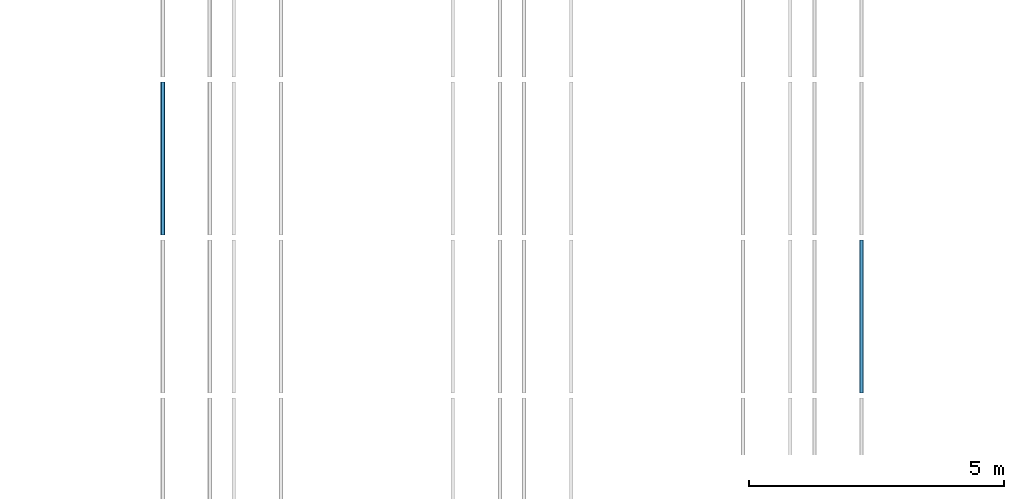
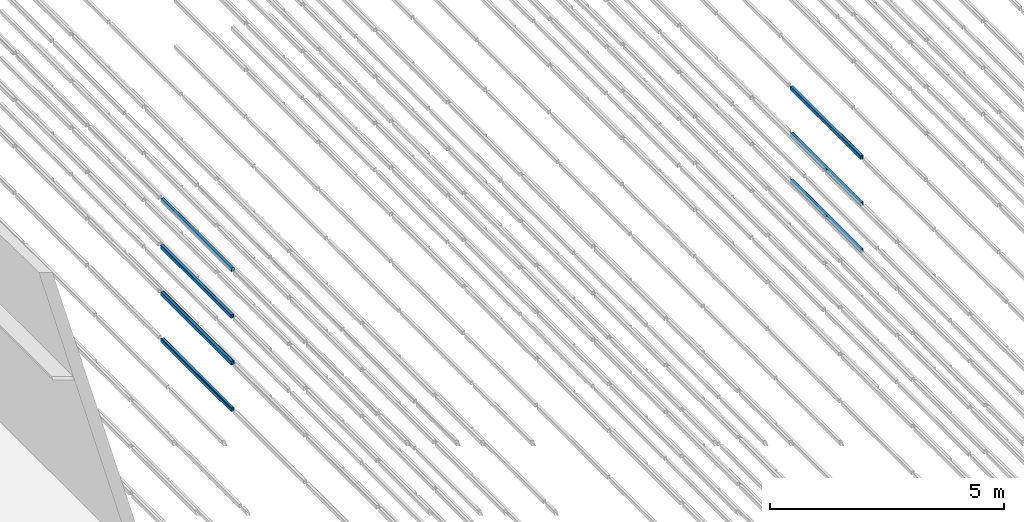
# One storey, part 56 of 290: 9 beams.
"""IFC2X3 building model written with IfcOpenShell, lengths in metres."""

from ifc_helpers import new_model, entity, si_unit, converted_unit, derived_unit, direction, frame, frame_2d, origin, place, context, subcontext, project, spatial, polyline, circle_curve, parameter, trimmed, segment, composite_curve, outline, extrude, material, type_object, element, save


model = new_model("IFC2X3")

# Units and contexts
model_context = context("Model", 3, precision=1e-05, world=origin(), true_north=direction((6.12303176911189e-17, 1.0)))
body_context = subcontext(model_context, "Body", "Model", "MODEL_VIEW")
ifc_project = project(units=[si_unit("LENGTHUNIT", "METRE"), si_unit("AREAUNIT", "SQUARE_METRE"), si_unit("VOLUMEUNIT", "CUBIC_METRE"), converted_unit("PLANEANGLEUNIT", "DEGREE", entity("IfcRatioMeasure", 0.0174532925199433), si_unit("PLANEANGLEUNIT", "RADIAN"), dimensions=[0, 0, 0, 0, 0, 0, 0]), si_unit("MASSUNIT", "GRAM", prefix="KILO"), derived_unit("MASSDENSITYUNIT", [(si_unit("MASSUNIT", "GRAM", prefix="KILO"), 1), (si_unit("LENGTHUNIT", "METRE"), -3)]), derived_unit("MOMENTOFINERTIAUNIT", [(si_unit("LENGTHUNIT", "METRE"), 4)]), si_unit("TIMEUNIT", "SECOND"), si_unit("FREQUENCYUNIT", "HERTZ"), si_unit("THERMODYNAMICTEMPERATUREUNIT", "DEGREE_CELSIUS"), derived_unit("THERMALTRANSMITTANCEUNIT", [(si_unit("MASSUNIT", "GRAM", prefix="KILO"), 1), (si_unit("THERMODYNAMICTEMPERATUREUNIT", "KELVIN"), -1), (si_unit("TIMEUNIT", "SECOND"), -3)]), derived_unit("VOLUMETRICFLOWRATEUNIT", [(si_unit("LENGTHUNIT", "METRE"), 3), (si_unit("TIMEUNIT", "SECOND"), -1)]), si_unit("ELECTRICCURRENTUNIT", "AMPERE"), si_unit("ELECTRICVOLTAGEUNIT", "VOLT"), si_unit("POWERUNIT", "WATT"), si_unit("FORCEUNIT", "NEWTON", prefix="KILO"), si_unit("ILLUMINANCEUNIT", "LUX"), si_unit("LUMINOUSFLUXUNIT", "LUMEN"), si_unit("LUMINOUSINTENSITYUNIT", "CANDELA"), derived_unit("USERDEFINED", [(si_unit("MASSUNIT", "GRAM", prefix="KILO"), -1), (si_unit("LENGTHUNIT", "METRE"), -2), (si_unit("TIMEUNIT", "SECOND"), 3), (si_unit("LUMINOUSFLUXUNIT", "LUMEN"), 1)]), derived_unit("LINEARVELOCITYUNIT", [(si_unit("LENGTHUNIT", "METRE"), 1), (si_unit("TIMEUNIT", "SECOND"), -1)]), si_unit("PRESSUREUNIT", "PASCAL"), derived_unit("USERDEFINED", [(si_unit("LENGTHUNIT", "METRE"), -2), (si_unit("MASSUNIT", "GRAM", prefix="KILO"), 1), (si_unit("TIMEUNIT", "SECOND"), -2)]), derived_unit("LINEARFORCEUNIT", [(si_unit("MASSUNIT", "GRAM", prefix="KILO"), 1), (si_unit("LENGTHUNIT", "METRE"), 1), (si_unit("TIMEUNIT", "SECOND"), -2), (si_unit("LENGTHUNIT", "METRE"), -1)]), derived_unit("PLANARFORCEUNIT", [(si_unit("MASSUNIT", "GRAM", prefix="KILO"), 1), (si_unit("LENGTHUNIT", "METRE"), 1), (si_unit("TIMEUNIT", "SECOND"), -2), (si_unit("LENGTHUNIT", "METRE"), -2)])], contexts=[model_context])

# Site, building, storey
site_placement = place(None, origin())
site = spatial("IfcSite", under=ifc_project, at=site_placement, Name="Default", CompositionType="ELEMENT")
building_placement = place(site_placement, origin())
building = spatial("IfcBuilding", under=site, at=building_placement, CompositionType="ELEMENT")
storey_placement = place(building_placement, frame((0.0, 0.0, 4.0)))
storey = spatial("IfcBuildingStorey", under=building, at=storey_placement, Name="01_OG", CompositionType="ELEMENT", Elevation=4.0)

# Beams
ifc_material = material(Name="Metall - Baustahl S235 blau")
beam_type = type_object("IfcBeamType", Name="RHS Träger (EN 10219-2):RHS 100 x 75 x 5", PredefinedType="NOTDEFINED")
beam_1_placement = place(storey_placement, frame((-188.465111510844, 36.448088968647, 0.0150000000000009), z_axis=(0.0, 0.0, 1.0), x_axis=(0.0, 1.0, 0.0)))
element("IfcBeam", 1, at=beam_1_placement, inside=storey, type_object=beam_type, material=ifc_material, Name="RHS Träger (EN 10219-2):RHS 100 x 75 x 5", ObjectType="RHS Träger (EN 10219-2):RHS 100 x 75 x 5", context=body_context, shape_type="SweptSolid", body=[
    extrude(outline(composite_curve([segment(polyline([(-0.0400000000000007, -0.0374999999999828), (0.0399999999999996, -0.0374999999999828)]), True, "CONTINUOUS"), segment(trimmed(circle_curve(frame_2d((0.0399999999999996, -0.0274999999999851), x_axis=(0.0, 1.0)), 0.01), [parameter(180.0)], [parameter(270.0)], True, "PARAMETER"), True, "CONTINUOUS"), segment(polyline([(0.0499999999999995, -0.0274999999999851), (0.0499999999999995, 0.0274999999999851)]), True, "CONTINUOUS"), segment(trimmed(circle_curve(frame_2d((0.0399999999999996, 0.0274999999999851), x_axis=(0.0, 1.0)), 0.01), [parameter(270.0)], [parameter(4.07110999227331e-13)], True, "PARAMETER"), True, "CONTINUOUS"), segment(polyline([(0.0399999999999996, 0.0375000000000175), (-0.0400000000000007, 0.0375000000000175)]), True, "CONTINUOUS"), segment(trimmed(circle_curve(frame_2d((-0.0400000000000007, 0.0274999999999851), x_axis=(0.0, 1.0)), 0.01), [parameter(360.0)], [parameter(90.0000000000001)], True, "PARAMETER"), True, "CONTINUOUS"), segment(polyline([(-0.0500000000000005, 0.0274999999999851), (-0.0500000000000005, -0.0274999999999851)]), True, "CONTINUOUS"), segment(trimmed(circle_curve(frame_2d((-0.0400000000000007, -0.0274999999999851), x_axis=(0.0, 1.0)), 0.01), [parameter(90.0000000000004)], [parameter(180.0)], True, "PARAMETER"), True, "CONTINUOUS")], self_intersect=False), holes=[composite_curve([segment(trimmed(circle_curve(frame_2d((-0.0400000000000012, 0.0274999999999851), x_axis=(0.0, 1.0)), 0.005), [parameter(360.0)], [parameter(89.9999999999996)], True, "PARAMETER"), False, "CONTINUOUS"), segment(polyline([(-0.0400000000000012, 0.0325000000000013), (0.0399999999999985, 0.0325000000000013)]), True, "CONTINUOUS"), segment(trimmed(circle_curve(frame_2d((0.0399999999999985, 0.0274999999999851), x_axis=(0.0, 1.0)), 0.005), [parameter(270.0)], [parameter(0.0)], True, "PARAMETER"), False, "CONTINUOUS"), segment(polyline([(0.0449999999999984, 0.0274999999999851), (0.0449999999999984, -0.0274999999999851)]), True, "CONTINUOUS"), segment(trimmed(circle_curve(frame_2d((0.0399999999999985, -0.0274999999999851), x_axis=(0.0, 1.0)), 0.005), [parameter(180.0)], [parameter(269.999999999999)], True, "PARAMETER"), False, "CONTINUOUS"), segment(polyline([(0.0399999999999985, -0.0325000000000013), (-0.0400000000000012, -0.0325000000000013)]), True, "CONTINUOUS"), segment(trimmed(circle_curve(frame_2d((-0.0400000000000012, -0.0274999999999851), x_axis=(0.0, 1.0)), 0.005), [parameter(90.0000000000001)], [parameter(180.0)], True, "PARAMETER"), False, "CONTINUOUS"), segment(polyline([(-0.0450000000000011, -0.0274999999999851), (-0.0450000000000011, 0.0274999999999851)]), True, "CONTINUOUS")], self_intersect=False)]), frame((9.9999999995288e-05, -0.0375000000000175, -0.0500000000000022), z_axis=(1.0, 0.0, 0.0), x_axis=(0.0, 0.0, -1.0)), (0.0, 0.0, 1.0), 2.9998),
])
beam_2_placement = place(storey_placement, frame((-188.465111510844, 36.448088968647, 1.23), z_axis=(0.0, 0.0, 1.0), x_axis=(0.0, 1.0, 0.0)))
element("IfcBeam", 2, at=beam_2_placement, inside=storey, type_object=beam_type, material=ifc_material, Name="RHS Träger (EN 10219-2):RHS 100 x 75 x 5", ObjectType="RHS Träger (EN 10219-2):RHS 100 x 75 x 5", context=body_context, shape_type="SweptSolid", body=[
    extrude(outline(composite_curve([segment(polyline([(-0.0399999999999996, -0.0374999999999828), (0.0399999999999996, -0.0374999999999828)]), True, "CONTINUOUS"), segment(trimmed(circle_curve(frame_2d((0.0399999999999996, -0.0274999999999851), x_axis=(0.0, 1.0)), 0.01), [parameter(180.0)], [parameter(270.0)], True, "PARAMETER"), True, "CONTINUOUS"), segment(polyline([(0.0500000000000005, -0.0274999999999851), (0.0500000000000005, 0.0274999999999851)]), True, "CONTINUOUS"), segment(trimmed(circle_curve(frame_2d((0.0399999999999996, 0.0274999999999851), x_axis=(0.0, 1.0)), 0.01), [parameter(270.0)], [parameter(4.07110999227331e-13)], True, "PARAMETER"), True, "CONTINUOUS"), segment(polyline([(0.0399999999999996, 0.0375000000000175), (-0.0399999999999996, 0.0375000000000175)]), True, "CONTINUOUS"), segment(trimmed(circle_curve(frame_2d((-0.0399999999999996, 0.0274999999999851), x_axis=(0.0, 1.0)), 0.01), [parameter(360.0)], [parameter(90.0000000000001)], True, "PARAMETER"), True, "CONTINUOUS"), segment(polyline([(-0.0499999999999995, 0.0274999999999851), (-0.0499999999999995, -0.0274999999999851)]), True, "CONTINUOUS"), segment(trimmed(circle_curve(frame_2d((-0.0399999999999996, -0.0274999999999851), x_axis=(0.0, 1.0)), 0.01), [parameter(90.0000000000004)], [parameter(180.0)], True, "PARAMETER"), True, "CONTINUOUS")], self_intersect=False), holes=[composite_curve([segment(trimmed(circle_curve(frame_2d((-0.0400000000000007, 0.0274999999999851), x_axis=(0.0, 1.0)), 0.005), [parameter(360.0)], [parameter(89.9999999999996)], True, "PARAMETER"), False, "CONTINUOUS"), segment(polyline([(-0.0400000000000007, 0.0325000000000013), (0.0399999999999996, 0.0325000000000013)]), True, "CONTINUOUS"), segment(trimmed(circle_curve(frame_2d((0.0399999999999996, 0.0274999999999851), x_axis=(0.0, 1.0)), 0.005), [parameter(270.0)], [parameter(0.0)], True, "PARAMETER"), False, "CONTINUOUS"), segment(polyline([(0.0449999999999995, 0.0274999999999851), (0.0449999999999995, -0.0274999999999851)]), True, "CONTINUOUS"), segment(trimmed(circle_curve(frame_2d((0.0399999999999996, -0.0274999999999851), x_axis=(0.0, 1.0)), 0.005), [parameter(180.0)], [parameter(269.999999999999)], True, "PARAMETER"), False, "CONTINUOUS"), segment(polyline([(0.0399999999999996, -0.0325000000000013), (-0.0400000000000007, -0.0325000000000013)]), True, "CONTINUOUS"), segment(trimmed(circle_curve(frame_2d((-0.0400000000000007, -0.0274999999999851), x_axis=(0.0, 1.0)), 0.005), [parameter(90.0000000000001)], [parameter(180.0)], True, "PARAMETER"), False, "CONTINUOUS"), segment(polyline([(-0.0450000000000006, -0.0274999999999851), (-0.0450000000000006, 0.0274999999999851)]), True, "CONTINUOUS")], self_intersect=False)]), frame((9.99999999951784e-05, -0.0375000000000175, -0.0500000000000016), z_axis=(1.0, 0.0, 0.0), x_axis=(0.0, 0.0, -1.0)), (0.0, 0.0, 1.0), 2.9998),
])
beam_3_placement = place(storey_placement, frame((-188.465111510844, 36.448088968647, 2.445), z_axis=(0.0, 0.0, 1.0), x_axis=(0.0, 1.0, 0.0)))
element("IfcBeam", 3, at=beam_3_placement, inside=storey, type_object=beam_type, material=ifc_material, Name="RHS Träger (EN 10219-2):RHS 100 x 75 x 5", ObjectType="RHS Träger (EN 10219-2):RHS 100 x 75 x 5", context=body_context, shape_type="SweptSolid", body=[
    extrude(outline(composite_curve([segment(polyline([(-0.0399999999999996, -0.0374999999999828), (0.0399999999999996, -0.0374999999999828)]), True, "CONTINUOUS"), segment(trimmed(circle_curve(frame_2d((0.0399999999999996, -0.0274999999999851), x_axis=(0.0, 1.0)), 0.01), [parameter(180.0)], [parameter(270.0)], True, "PARAMETER"), True, "CONTINUOUS"), segment(polyline([(0.0500000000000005, -0.0274999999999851), (0.0500000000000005, 0.0274999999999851)]), True, "CONTINUOUS"), segment(trimmed(circle_curve(frame_2d((0.0399999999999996, 0.0274999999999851), x_axis=(0.0, 1.0)), 0.01), [parameter(270.0)], [parameter(4.07110999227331e-13)], True, "PARAMETER"), True, "CONTINUOUS"), segment(polyline([(0.0399999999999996, 0.0375000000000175), (-0.0399999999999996, 0.0375000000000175)]), True, "CONTINUOUS"), segment(trimmed(circle_curve(frame_2d((-0.0399999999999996, 0.0274999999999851), x_axis=(0.0, 1.0)), 0.01), [parameter(360.0)], [parameter(90.0000000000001)], True, "PARAMETER"), True, "CONTINUOUS"), segment(polyline([(-0.0499999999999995, 0.0274999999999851), (-0.0499999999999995, -0.0274999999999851)]), True, "CONTINUOUS"), segment(trimmed(circle_curve(frame_2d((-0.0399999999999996, -0.0274999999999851), x_axis=(0.0, 1.0)), 0.01), [parameter(90.0000000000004)], [parameter(180.0)], True, "PARAMETER"), True, "CONTINUOUS")], self_intersect=False), holes=[composite_curve([segment(trimmed(circle_curve(frame_2d((-0.0400000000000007, 0.0274999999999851), x_axis=(0.0, 1.0)), 0.005), [parameter(360.0)], [parameter(89.9999999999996)], True, "PARAMETER"), False, "CONTINUOUS"), segment(polyline([(-0.0400000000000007, 0.0325000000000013), (0.0399999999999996, 0.0325000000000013)]), True, "CONTINUOUS"), segment(trimmed(circle_curve(frame_2d((0.0399999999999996, 0.0274999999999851), x_axis=(0.0, 1.0)), 0.005), [parameter(270.0)], [parameter(0.0)], True, "PARAMETER"), False, "CONTINUOUS"), segment(polyline([(0.0449999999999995, 0.0274999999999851), (0.0449999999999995, -0.0274999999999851)]), True, "CONTINUOUS"), segment(trimmed(circle_curve(frame_2d((0.0399999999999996, -0.0274999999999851), x_axis=(0.0, 1.0)), 0.005), [parameter(180.0)], [parameter(269.999999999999)], True, "PARAMETER"), False, "CONTINUOUS"), segment(polyline([(0.0399999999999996, -0.0325000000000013), (-0.0400000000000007, -0.0325000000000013)]), True, "CONTINUOUS"), segment(trimmed(circle_curve(frame_2d((-0.0400000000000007, -0.0274999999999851), x_axis=(0.0, 1.0)), 0.005), [parameter(90.0000000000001)], [parameter(180.0)], True, "PARAMETER"), False, "CONTINUOUS"), segment(polyline([(-0.0450000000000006, -0.0274999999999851), (-0.0450000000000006, 0.0274999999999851)]), True, "CONTINUOUS")], self_intersect=False)]), frame((9.99999999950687e-05, -0.0375000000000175, -0.0500000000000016), z_axis=(1.0, 0.0, 0.0), x_axis=(0.0, 0.0, -1.0)), (0.0, 0.0, 1.0), 2.9998),
])
beam_4_placement = place(storey_placement, frame((-202.105111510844, 39.548088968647, -1.2), z_axis=(0.0, 0.0, 1.0), x_axis=(0.0, 1.0, 0.0)))
element("IfcBeam", 4, at=beam_4_placement, inside=storey, type_object=beam_type, material=ifc_material, Name="RHS Träger (EN 10219-2):RHS 100 x 75 x 5", ObjectType="RHS Träger (EN 10219-2):RHS 100 x 75 x 5", context=body_context, shape_type="SweptSolid", body=[
    extrude(outline(composite_curve([segment(trimmed(circle_curve(frame_2d((-0.0274999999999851, -0.0400000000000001), x_axis=(1.0, 0.0)), 0.01), [parameter(180.0)], [parameter(270.0)], True, "PARAMETER"), True, "CONTINUOUS"), segment(polyline([(-0.0274999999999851, -0.05), (0.0274999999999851, -0.05)]), True, "CONTINUOUS"), segment(trimmed(circle_curve(frame_2d((0.0274999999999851, -0.0400000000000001), x_axis=(1.0, 0.0)), 0.01), [parameter(270.0)], [parameter(5.08888749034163e-14)], True, "PARAMETER"), True, "CONTINUOUS"), segment(polyline([(0.0375000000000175, -0.0400000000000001), (0.0375000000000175, 0.0400000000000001)]), True, "CONTINUOUS"), segment(trimmed(circle_curve(frame_2d((0.0274999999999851, 0.0400000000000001), x_axis=(1.0, 0.0)), 0.01), [parameter(360.0)], [parameter(89.9999999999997)], True, "PARAMETER"), True, "CONTINUOUS"), segment(polyline([(0.0274999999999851, 0.05), (-0.0274999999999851, 0.05)]), True, "CONTINUOUS"), segment(trimmed(circle_curve(frame_2d((-0.0274999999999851, 0.0400000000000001), x_axis=(1.0, 0.0)), 0.01), [parameter(90.0000000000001)], [parameter(180.0)], True, "PARAMETER"), True, "CONTINUOUS"), segment(polyline([(-0.0374999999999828, 0.0400000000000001), (-0.0374999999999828, -0.0400000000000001)]), True, "CONTINUOUS")], self_intersect=False), holes=[composite_curve([segment(polyline([(0.0274999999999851, -0.0450000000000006), (-0.0274999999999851, -0.0450000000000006)]), True, "CONTINUOUS"), segment(trimmed(circle_curve(frame_2d((-0.0274999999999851, -0.0400000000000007), x_axis=(1.0, 0.0)), 0.005), [parameter(180.0)], [parameter(270.0)], True, "PARAMETER"), False, "CONTINUOUS"), segment(polyline([(-0.0325000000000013, -0.0400000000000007), (-0.0325000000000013, 0.039999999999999)]), True, "CONTINUOUS"), segment(trimmed(circle_curve(frame_2d((-0.0274999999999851, 0.039999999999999), x_axis=(1.0, 0.0)), 0.005), [parameter(90.0000000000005)], [parameter(180.0)], True, "PARAMETER"), False, "CONTINUOUS"), segment(polyline([(-0.0274999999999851, 0.044999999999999), (0.0274999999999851, 0.044999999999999)]), True, "CONTINUOUS"), segment(trimmed(circle_curve(frame_2d((0.0274999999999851, 0.039999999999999), x_axis=(1.0, 0.0)), 0.005), [parameter(0.0)], [parameter(90.0000000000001)], True, "PARAMETER"), False, "CONTINUOUS"), segment(polyline([(0.0325000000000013, 0.039999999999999), (0.0325000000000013, -0.0400000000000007)]), True, "CONTINUOUS"), segment(trimmed(circle_curve(frame_2d((0.0274999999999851, -0.0400000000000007), x_axis=(1.0, 0.0)), 0.005), [parameter(270.0)], [parameter(4.07110999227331e-13)], True, "PARAMETER"), False, "CONTINUOUS")], self_intersect=False)]), frame((9.99999999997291e-05, 0.0375000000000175, -0.0500000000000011), z_axis=(1.0, 0.0, 0.0), x_axis=(0.0, -1.0, 0.0)), (0.0, 0.0, 1.0), 2.99979999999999),
])
beam_5_placement = place(storey_placement, frame((-202.105111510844, 39.548088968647, 0.0150000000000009), z_axis=(0.0, 0.0, 1.0), x_axis=(0.0, 1.0, 0.0)))
element("IfcBeam", 5, at=beam_5_placement, inside=storey, type_object=beam_type, material=ifc_material, Name="RHS Träger (EN 10219-2):RHS 100 x 75 x 5", ObjectType="RHS Träger (EN 10219-2):RHS 100 x 75 x 5", context=body_context, shape_type="SweptSolid", body=[
    extrude(outline(composite_curve([segment(trimmed(circle_curve(frame_2d((-0.0274999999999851, -0.0400000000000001), x_axis=(1.0, 0.0)), 0.01), [parameter(180.0)], [parameter(270.0)], True, "PARAMETER"), True, "CONTINUOUS"), segment(polyline([(-0.0274999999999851, -0.05), (0.0274999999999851, -0.05)]), True, "CONTINUOUS"), segment(trimmed(circle_curve(frame_2d((0.0274999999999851, -0.0400000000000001), x_axis=(1.0, 0.0)), 0.01), [parameter(270.0)], [parameter(5.08888749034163e-14)], True, "PARAMETER"), True, "CONTINUOUS"), segment(polyline([(0.0375000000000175, -0.0400000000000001), (0.0375000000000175, 0.0400000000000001)]), True, "CONTINUOUS"), segment(trimmed(circle_curve(frame_2d((0.0274999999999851, 0.0400000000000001), x_axis=(1.0, 0.0)), 0.01), [parameter(360.0)], [parameter(89.9999999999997)], True, "PARAMETER"), True, "CONTINUOUS"), segment(polyline([(0.0274999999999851, 0.05), (-0.0274999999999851, 0.05)]), True, "CONTINUOUS"), segment(trimmed(circle_curve(frame_2d((-0.0274999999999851, 0.0400000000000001), x_axis=(1.0, 0.0)), 0.01), [parameter(90.0000000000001)], [parameter(180.0)], True, "PARAMETER"), True, "CONTINUOUS"), segment(polyline([(-0.0374999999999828, 0.0400000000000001), (-0.0374999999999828, -0.0400000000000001)]), True, "CONTINUOUS")], self_intersect=False), holes=[composite_curve([segment(polyline([(0.0274999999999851, -0.0450000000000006), (-0.0274999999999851, -0.0450000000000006)]), True, "CONTINUOUS"), segment(trimmed(circle_curve(frame_2d((-0.0274999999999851, -0.0400000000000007), x_axis=(1.0, 0.0)), 0.005), [parameter(180.0)], [parameter(270.0)], True, "PARAMETER"), False, "CONTINUOUS"), segment(polyline([(-0.0325000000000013, -0.0400000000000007), (-0.0325000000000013, 0.039999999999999)]), True, "CONTINUOUS"), segment(trimmed(circle_curve(frame_2d((-0.0274999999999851, 0.039999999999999), x_axis=(1.0, 0.0)), 0.005), [parameter(90.0000000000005)], [parameter(180.0)], True, "PARAMETER"), False, "CONTINUOUS"), segment(polyline([(-0.0274999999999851, 0.044999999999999), (0.0274999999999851, 0.044999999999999)]), True, "CONTINUOUS"), segment(trimmed(circle_curve(frame_2d((0.0274999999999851, 0.039999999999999), x_axis=(1.0, 0.0)), 0.005), [parameter(0.0)], [parameter(90.0000000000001)], True, "PARAMETER"), False, "CONTINUOUS"), segment(polyline([(0.0325000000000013, 0.039999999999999), (0.0325000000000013, -0.0400000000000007)]), True, "CONTINUOUS"), segment(trimmed(circle_curve(frame_2d((0.0274999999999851, -0.0400000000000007), x_axis=(1.0, 0.0)), 0.005), [parameter(270.0)], [parameter(4.07110999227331e-13)], True, "PARAMETER"), False, "CONTINUOUS")], self_intersect=False)]), frame((9.99999999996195e-05, 0.0375000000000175, -0.0500000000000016), z_axis=(1.0, 0.0, 0.0), x_axis=(0.0, -1.0, 0.0)), (0.0, 0.0, 1.0), 2.99979999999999),
])
beam_6_placement = place(storey_placement, frame((-202.105111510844, 39.548088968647, 2.445), z_axis=(0.0, 0.0, 1.0), x_axis=(0.0, 1.0, 0.0)))
element("IfcBeam", 6, at=beam_6_placement, inside=storey, type_object=beam_type, material=ifc_material, Name="RHS Träger (EN 10219-2):RHS 100 x 75 x 5", ObjectType="RHS Träger (EN 10219-2):RHS 100 x 75 x 5", context=body_context, shape_type="SweptSolid", body=[
    extrude(outline(composite_curve([segment(trimmed(circle_curve(frame_2d((-0.0274999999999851, -0.0399999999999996), x_axis=(1.0, 0.0)), 0.01), [parameter(180.0)], [parameter(270.0)], True, "PARAMETER"), True, "CONTINUOUS"), segment(polyline([(-0.0274999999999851, -0.0499999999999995), (0.0274999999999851, -0.0499999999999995)]), True, "CONTINUOUS"), segment(trimmed(circle_curve(frame_2d((0.0274999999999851, -0.0399999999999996), x_axis=(1.0, 0.0)), 0.01), [parameter(270.0)], [parameter(5.08888749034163e-14)], True, "PARAMETER"), True, "CONTINUOUS"), segment(polyline([(0.0375000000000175, -0.0399999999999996), (0.0375000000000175, 0.0399999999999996)]), True, "CONTINUOUS"), segment(trimmed(circle_curve(frame_2d((0.0274999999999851, 0.0399999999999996), x_axis=(1.0, 0.0)), 0.01), [parameter(360.0)], [parameter(89.9999999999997)], True, "PARAMETER"), True, "CONTINUOUS"), segment(polyline([(0.0274999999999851, 0.0500000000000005), (-0.0274999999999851, 0.0500000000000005)]), True, "CONTINUOUS"), segment(trimmed(circle_curve(frame_2d((-0.0274999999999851, 0.0399999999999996), x_axis=(1.0, 0.0)), 0.01), [parameter(90.0000000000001)], [parameter(180.0)], True, "PARAMETER"), True, "CONTINUOUS"), segment(polyline([(-0.0374999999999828, 0.0399999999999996), (-0.0374999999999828, -0.0399999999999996)]), True, "CONTINUOUS")], self_intersect=False), holes=[composite_curve([segment(polyline([(0.0274999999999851, -0.0450000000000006), (-0.0274999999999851, -0.0450000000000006)]), True, "CONTINUOUS"), segment(trimmed(circle_curve(frame_2d((-0.0274999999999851, -0.0400000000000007), x_axis=(1.0, 0.0)), 0.005), [parameter(180.0)], [parameter(270.0)], True, "PARAMETER"), False, "CONTINUOUS"), segment(polyline([(-0.0325000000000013, -0.0400000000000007), (-0.0325000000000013, 0.0399999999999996)]), True, "CONTINUOUS"), segment(trimmed(circle_curve(frame_2d((-0.0274999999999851, 0.0399999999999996), x_axis=(1.0, 0.0)), 0.005), [parameter(90.0000000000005)], [parameter(180.0)], True, "PARAMETER"), False, "CONTINUOUS"), segment(polyline([(-0.0274999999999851, 0.0449999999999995), (0.0274999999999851, 0.0449999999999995)]), True, "CONTINUOUS"), segment(trimmed(circle_curve(frame_2d((0.0274999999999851, 0.0399999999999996), x_axis=(1.0, 0.0)), 0.005), [parameter(0.0)], [parameter(90.0000000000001)], True, "PARAMETER"), False, "CONTINUOUS"), segment(polyline([(0.0325000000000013, 0.0399999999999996), (0.0325000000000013, -0.0400000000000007)]), True, "CONTINUOUS"), segment(trimmed(circle_curve(frame_2d((0.0274999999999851, -0.0400000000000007), x_axis=(1.0, 0.0)), 0.005), [parameter(270.0)], [parameter(4.07110999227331e-13)], True, "PARAMETER"), False, "CONTINUOUS")], self_intersect=False)]), frame((9.99999999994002e-05, 0.0375000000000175, -0.0500000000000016), z_axis=(1.0, 0.0, 0.0), x_axis=(0.0, -1.0, 0.0)), (0.0, 0.0, 1.0), 2.99979999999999),
])
beam_7_placement = place(storey_placement, frame((-202.115111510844, 39.548088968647, -1.2), z_axis=(0.0, 0.0, 1.0), x_axis=(0.0, 1.0, 0.0)))
element("IfcBeam", 7, at=beam_7_placement, inside=storey, type_object=beam_type, material=ifc_material, Name="RHS Träger (EN 10219-2):RHS 100 x 75 x 5", ObjectType="RHS Träger (EN 10219-2):RHS 100 x 75 x 5", context=body_context, shape_type="SweptSolid", body=[
    extrude(outline(composite_curve([segment(trimmed(circle_curve(frame_2d((-0.0274999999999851, -0.0400000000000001), x_axis=(1.0, 0.0)), 0.01), [parameter(180.0)], [parameter(270.0)], True, "PARAMETER"), True, "CONTINUOUS"), segment(polyline([(-0.0274999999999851, -0.05), (0.0274999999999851, -0.05)]), True, "CONTINUOUS"), segment(trimmed(circle_curve(frame_2d((0.0274999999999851, -0.0400000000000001), x_axis=(1.0, 0.0)), 0.01), [parameter(270.0)], [parameter(5.08888749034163e-14)], True, "PARAMETER"), True, "CONTINUOUS"), segment(polyline([(0.0375000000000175, -0.0400000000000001), (0.0375000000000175, 0.0400000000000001)]), True, "CONTINUOUS"), segment(trimmed(circle_curve(frame_2d((0.0274999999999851, 0.0400000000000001), x_axis=(1.0, 0.0)), 0.01), [parameter(360.0)], [parameter(89.9999999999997)], True, "PARAMETER"), True, "CONTINUOUS"), segment(polyline([(0.0274999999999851, 0.05), (-0.0274999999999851, 0.05)]), True, "CONTINUOUS"), segment(trimmed(circle_curve(frame_2d((-0.0274999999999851, 0.0400000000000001), x_axis=(1.0, 0.0)), 0.01), [parameter(90.0000000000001)], [parameter(180.0)], True, "PARAMETER"), True, "CONTINUOUS"), segment(polyline([(-0.0374999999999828, 0.0400000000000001), (-0.0374999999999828, -0.0400000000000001)]), True, "CONTINUOUS")], self_intersect=False), holes=[composite_curve([segment(polyline([(0.0274999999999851, -0.0450000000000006), (-0.0274999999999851, -0.0450000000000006)]), True, "CONTINUOUS"), segment(trimmed(circle_curve(frame_2d((-0.0274999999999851, -0.0400000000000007), x_axis=(1.0, 0.0)), 0.005), [parameter(180.0)], [parameter(270.0)], True, "PARAMETER"), False, "CONTINUOUS"), segment(polyline([(-0.0325000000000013, -0.0400000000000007), (-0.0325000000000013, 0.039999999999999)]), True, "CONTINUOUS"), segment(trimmed(circle_curve(frame_2d((-0.0274999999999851, 0.039999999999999), x_axis=(1.0, 0.0)), 0.005), [parameter(90.0000000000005)], [parameter(180.0)], True, "PARAMETER"), False, "CONTINUOUS"), segment(polyline([(-0.0274999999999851, 0.044999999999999), (0.0274999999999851, 0.044999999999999)]), True, "CONTINUOUS"), segment(trimmed(circle_curve(frame_2d((0.0274999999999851, 0.039999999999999), x_axis=(1.0, 0.0)), 0.005), [parameter(0.0)], [parameter(90.0000000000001)], True, "PARAMETER"), False, "CONTINUOUS"), segment(polyline([(0.0325000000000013, 0.039999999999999), (0.0325000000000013, -0.0400000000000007)]), True, "CONTINUOUS"), segment(trimmed(circle_curve(frame_2d((0.0274999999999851, -0.0400000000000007), x_axis=(1.0, 0.0)), 0.005), [parameter(270.0)], [parameter(4.07110999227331e-13)], True, "PARAMETER"), False, "CONTINUOUS")], self_intersect=False)]), frame((9.99999999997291e-05, 0.0375000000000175, -0.0500000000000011), z_axis=(1.0, 0.0, 0.0), x_axis=(0.0, -1.0, 0.0)), (0.0, 0.0, 1.0), 2.99979999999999),
])
beam_8_placement = place(storey_placement, frame((-202.115111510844, 39.548088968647, 0.0150000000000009), z_axis=(0.0, 0.0, 1.0), x_axis=(0.0, 1.0, 0.0)))
element("IfcBeam", 8, at=beam_8_placement, inside=storey, type_object=beam_type, material=ifc_material, Name="RHS Träger (EN 10219-2):RHS 100 x 75 x 5", ObjectType="RHS Träger (EN 10219-2):RHS 100 x 75 x 5", context=body_context, shape_type="SweptSolid", body=[
    extrude(outline(composite_curve([segment(trimmed(circle_curve(frame_2d((-0.0274999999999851, -0.0400000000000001), x_axis=(1.0, 0.0)), 0.01), [parameter(180.0)], [parameter(270.0)], True, "PARAMETER"), True, "CONTINUOUS"), segment(polyline([(-0.0274999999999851, -0.05), (0.0274999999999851, -0.05)]), True, "CONTINUOUS"), segment(trimmed(circle_curve(frame_2d((0.0274999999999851, -0.0400000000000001), x_axis=(1.0, 0.0)), 0.01), [parameter(270.0)], [parameter(5.08888749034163e-14)], True, "PARAMETER"), True, "CONTINUOUS"), segment(polyline([(0.0375000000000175, -0.0400000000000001), (0.0375000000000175, 0.0400000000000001)]), True, "CONTINUOUS"), segment(trimmed(circle_curve(frame_2d((0.0274999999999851, 0.0400000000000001), x_axis=(1.0, 0.0)), 0.01), [parameter(360.0)], [parameter(89.9999999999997)], True, "PARAMETER"), True, "CONTINUOUS"), segment(polyline([(0.0274999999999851, 0.05), (-0.0274999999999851, 0.05)]), True, "CONTINUOUS"), segment(trimmed(circle_curve(frame_2d((-0.0274999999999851, 0.0400000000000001), x_axis=(1.0, 0.0)), 0.01), [parameter(90.0000000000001)], [parameter(180.0)], True, "PARAMETER"), True, "CONTINUOUS"), segment(polyline([(-0.0374999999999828, 0.0400000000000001), (-0.0374999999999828, -0.0400000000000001)]), True, "CONTINUOUS")], self_intersect=False), holes=[composite_curve([segment(polyline([(0.0274999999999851, -0.0450000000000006), (-0.0274999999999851, -0.0450000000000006)]), True, "CONTINUOUS"), segment(trimmed(circle_curve(frame_2d((-0.0274999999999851, -0.0400000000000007), x_axis=(1.0, 0.0)), 0.005), [parameter(180.0)], [parameter(270.0)], True, "PARAMETER"), False, "CONTINUOUS"), segment(polyline([(-0.0325000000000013, -0.0400000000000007), (-0.0325000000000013, 0.039999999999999)]), True, "CONTINUOUS"), segment(trimmed(circle_curve(frame_2d((-0.0274999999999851, 0.039999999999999), x_axis=(1.0, 0.0)), 0.005), [parameter(90.0000000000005)], [parameter(180.0)], True, "PARAMETER"), False, "CONTINUOUS"), segment(polyline([(-0.0274999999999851, 0.044999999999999), (0.0274999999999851, 0.044999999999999)]), True, "CONTINUOUS"), segment(trimmed(circle_curve(frame_2d((0.0274999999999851, 0.039999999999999), x_axis=(1.0, 0.0)), 0.005), [parameter(0.0)], [parameter(90.0000000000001)], True, "PARAMETER"), False, "CONTINUOUS"), segment(polyline([(0.0325000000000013, 0.039999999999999), (0.0325000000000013, -0.0400000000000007)]), True, "CONTINUOUS"), segment(trimmed(circle_curve(frame_2d((0.0274999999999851, -0.0400000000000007), x_axis=(1.0, 0.0)), 0.005), [parameter(270.0)], [parameter(4.07110999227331e-13)], True, "PARAMETER"), False, "CONTINUOUS")], self_intersect=False)]), frame((9.99999999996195e-05, 0.0375000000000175, -0.0500000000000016), z_axis=(1.0, 0.0, 0.0), x_axis=(0.0, -1.0, 0.0)), (0.0, 0.0, 1.0), 2.99979999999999),
])
beam_9_placement = place(storey_placement, frame((-202.115111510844, 39.548088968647, 1.23), z_axis=(0.0, 0.0, 1.0), x_axis=(0.0, 1.0, 0.0)))
element("IfcBeam", 9, at=beam_9_placement, inside=storey, type_object=beam_type, material=ifc_material, Name="RHS Träger (EN 10219-2):RHS 100 x 75 x 5", ObjectType="RHS Träger (EN 10219-2):RHS 100 x 75 x 5", context=body_context, shape_type="SweptSolid", body=[
    extrude(outline(composite_curve([segment(trimmed(circle_curve(frame_2d((-0.0274999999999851, -0.0399999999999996), x_axis=(1.0, 0.0)), 0.01), [parameter(180.0)], [parameter(270.0)], True, "PARAMETER"), True, "CONTINUOUS"), segment(polyline([(-0.0274999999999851, -0.0499999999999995), (0.0274999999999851, -0.0499999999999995)]), True, "CONTINUOUS"), segment(trimmed(circle_curve(frame_2d((0.0274999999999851, -0.0399999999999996), x_axis=(1.0, 0.0)), 0.01), [parameter(270.0)], [parameter(5.08888749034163e-14)], True, "PARAMETER"), True, "CONTINUOUS"), segment(polyline([(0.0375000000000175, -0.0399999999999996), (0.0375000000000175, 0.0399999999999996)]), True, "CONTINUOUS"), segment(trimmed(circle_curve(frame_2d((0.0274999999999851, 0.0399999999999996), x_axis=(1.0, 0.0)), 0.01), [parameter(360.0)], [parameter(89.9999999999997)], True, "PARAMETER"), True, "CONTINUOUS"), segment(polyline([(0.0274999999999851, 0.0500000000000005), (-0.0274999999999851, 0.0500000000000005)]), True, "CONTINUOUS"), segment(trimmed(circle_curve(frame_2d((-0.0274999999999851, 0.0399999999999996), x_axis=(1.0, 0.0)), 0.01), [parameter(90.0000000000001)], [parameter(180.0)], True, "PARAMETER"), True, "CONTINUOUS"), segment(polyline([(-0.0374999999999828, 0.0399999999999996), (-0.0374999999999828, -0.0399999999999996)]), True, "CONTINUOUS")], self_intersect=False), holes=[composite_curve([segment(polyline([(0.0274999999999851, -0.0450000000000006), (-0.0274999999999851, -0.0450000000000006)]), True, "CONTINUOUS"), segment(trimmed(circle_curve(frame_2d((-0.0274999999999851, -0.0400000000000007), x_axis=(1.0, 0.0)), 0.005), [parameter(180.0)], [parameter(270.0)], True, "PARAMETER"), False, "CONTINUOUS"), segment(polyline([(-0.0325000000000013, -0.0400000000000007), (-0.0325000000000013, 0.0399999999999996)]), True, "CONTINUOUS"), segment(trimmed(circle_curve(frame_2d((-0.0274999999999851, 0.0399999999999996), x_axis=(1.0, 0.0)), 0.005), [parameter(90.0000000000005)], [parameter(180.0)], True, "PARAMETER"), False, "CONTINUOUS"), segment(polyline([(-0.0274999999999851, 0.0449999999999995), (0.0274999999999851, 0.0449999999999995)]), True, "CONTINUOUS"), segment(trimmed(circle_curve(frame_2d((0.0274999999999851, 0.0399999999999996), x_axis=(1.0, 0.0)), 0.005), [parameter(0.0)], [parameter(90.0000000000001)], True, "PARAMETER"), False, "CONTINUOUS"), segment(polyline([(0.0325000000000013, 0.0399999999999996), (0.0325000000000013, -0.0400000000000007)]), True, "CONTINUOUS"), segment(trimmed(circle_curve(frame_2d((0.0274999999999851, -0.0400000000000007), x_axis=(1.0, 0.0)), 0.005), [parameter(270.0)], [parameter(4.07110999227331e-13)], True, "PARAMETER"), False, "CONTINUOUS")], self_intersect=False)]), frame((9.99999999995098e-05, 0.0375000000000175, -0.0500000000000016), z_axis=(1.0, 0.0, 0.0), x_axis=(0.0, -1.0, 0.0)), (0.0, 0.0, 1.0), 2.99979999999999),
])

save(model, "model.ifc")
